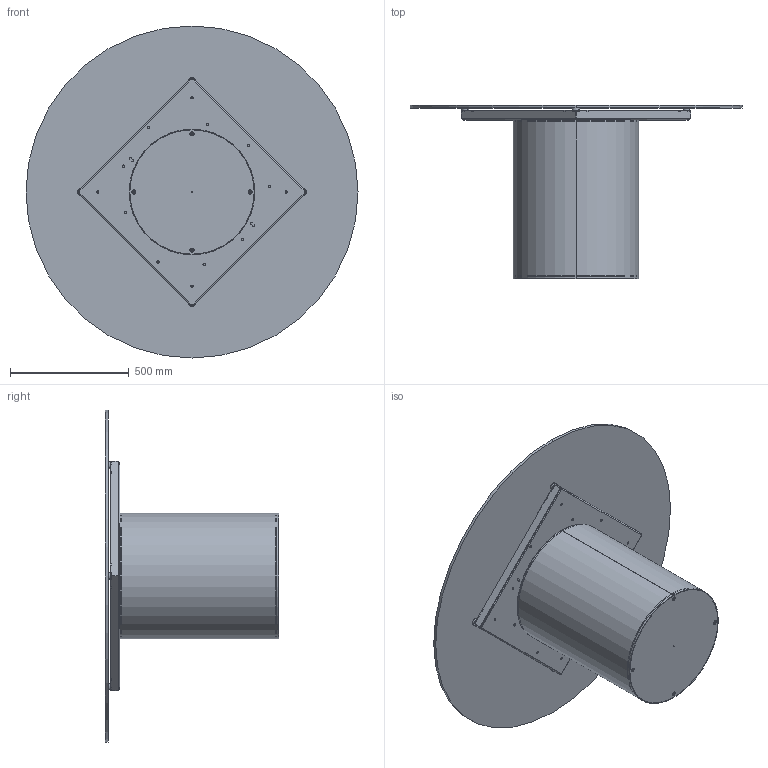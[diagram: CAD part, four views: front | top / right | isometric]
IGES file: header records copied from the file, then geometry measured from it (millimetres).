
Start section: SolidWorks IGES file using analytic representation for surfaces
Global section: file name: Y:\eforma\TECNICO\SOLIDWORKS\E-FORMA\1-TAVOLI\CILINDRO\02 parts\CI06G.IGS; native system: SolidWorks 2022; preprocessor: SolidWorks 2022; author: eforma.tech; date: 240808.090053; units: millimetre
Bounding box: 1400 x 732 x 1400 mm (x, y, z)
Volume: 25793894.8 mm3; surface area: 7275710.8 mm2
Topology: 23 solids, 23 shells, 704 faces, 1782 edges, 1106 vertices
Faces by surface type: revolution 372, plane 332
